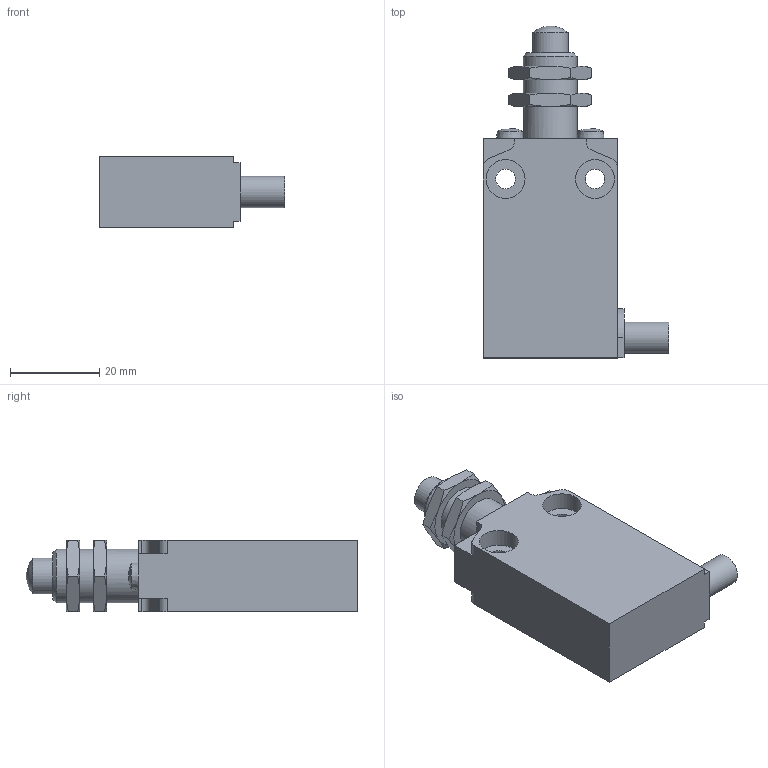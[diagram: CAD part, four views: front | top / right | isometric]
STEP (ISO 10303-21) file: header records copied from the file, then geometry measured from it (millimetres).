
FILE_DESCRIPTION(/* description */ (''),/* implementation_level */ '2;1');
FILE_NAME(/* name */ 'C:\Users\servizio.tecnico\Desktop\CADENAS\3D\EP1_STP\STP_EP1_G21U.stp',/* time_stamp */ '2017-08-31T16:25:55+02:00',/* author */ ('servizio.tecnico'),/* organization */ (''),/* preprocessor_version */ 'ST-DEVELOPER v16.1',/* originating_system */ 'Autodesk Inventor 2016',/* authorisation */ '');
FILE_SCHEMA (('AUTOMOTIVE_DESIGN { 1 0 10303 214 3 1 1 }'));
Length unit declared in the file: millimetre
Products named in the file (3): Product; EP1G21; BASE ASSI 
Assembly tree (2 placements, depth 3):
  BASE ASSI 
    EP1G21
      Product
Bounding box: 41.5 x 74.2 x 16 mm (x, y, z)
Volume: 25496.5 mm3; surface area: 10036.7 mm2
Topology: 5 solids, 5 shells, 126 faces, 301 edges, 189 vertices
Faces by surface type: plane 61, cone 31, cylinder 29, sphere 3, torus 2
Full cylindrical faces by diameter (mm): 4.4 x2, 7 x1, 7.95 x1, 8.05 x1, 8.7 x4, 12 x3
Entity records: 3524 total; most frequent: CARTESIAN_POINT 695, DIRECTION 580, ORIENTED_EDGE 544, EDGE_CURVE 272, AXIS2_PLACEMENT_3D 233, VERTEX_POINT 180, EDGE_LOOP 158, FACE_OUTER_BOUND 126
